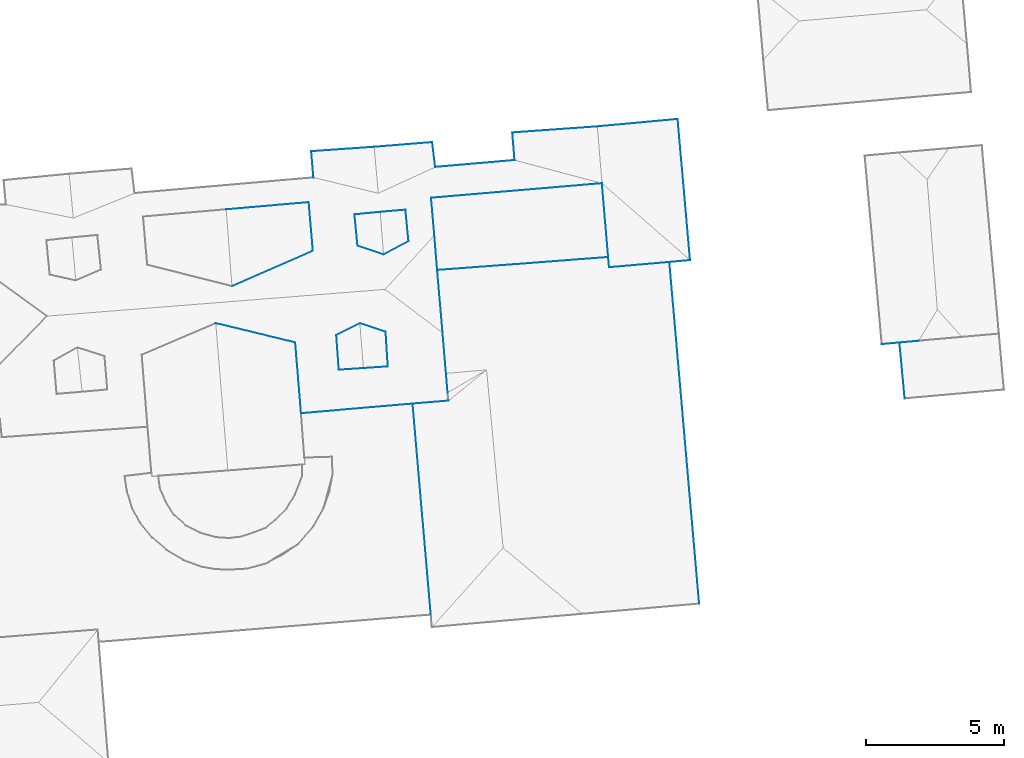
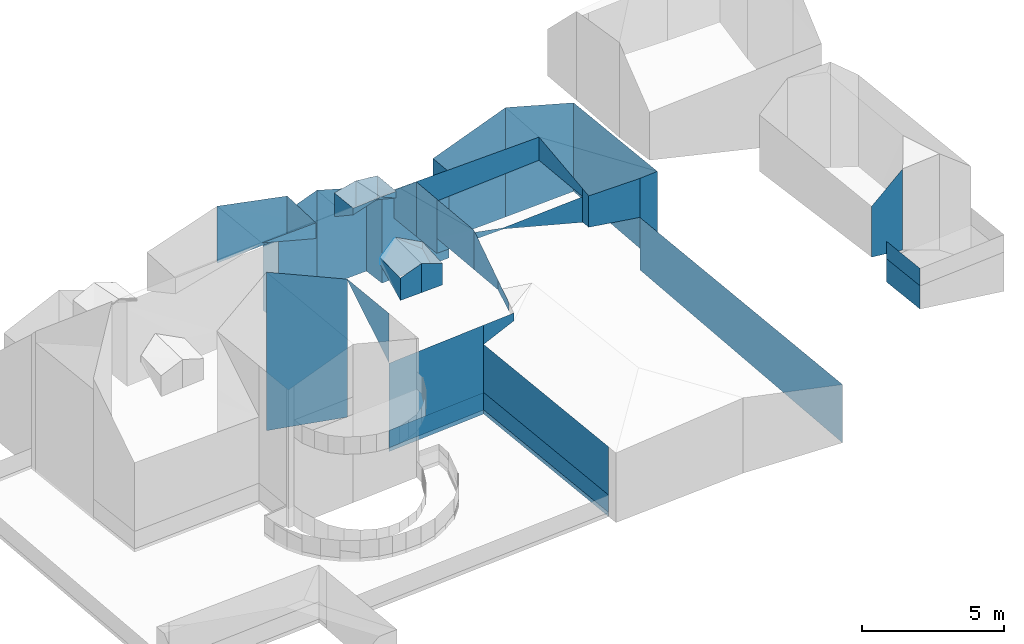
# Not in any storey, part 23 of 59: 51 walls.
"""IFC4 building model written with IfcOpenShell, lengths in metres."""

from ifc_helpers import new_model, entity, si_unit, converted_unit, frame, origin, place, context, subcontext, project, spatial, face_set, surface_model, element, save


model = new_model("IFC4")

# Units and contexts
model_context = context("Model", 3, precision=1e-05, world=origin())
body_context = subcontext(model_context, "Body", "Model", "MODEL_VIEW")
ifc_project = project(units=[converted_unit("PLANEANGLEUNIT", "DEGREE", entity("IfcRatioMeasure", 0.0174532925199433), si_unit("PLANEANGLEUNIT", "RADIAN"), dimensions=[0, 0, 0, 0, 0, 0, 0]), si_unit("AREAUNIT", "SQUARE_METRE"), si_unit("LENGTHUNIT", "METRE")], contexts=[model_context])

# Site, building
site_placement = place(None, origin())
site = spatial("IfcSite", under=ifc_project, at=site_placement, Name="_site")
building_1_placement = place(site_placement, origin())
building_1 = spatial("IfcBuilding", under=site, at=building_1_placement, Name="_building")

# Walls
wall_1_placement = place(building_1_placement, origin())
element("IfcWall", 1, at=wall_1_placement, inside=building_1, Name="Wall", PredefinedType="NOTDEFINED", context=body_context, shape_type="SurfaceModel", body=[
    surface_model("IfcFaceBasedSurfaceModel", [(262.94, 96.939, 228.74), (261.61, 96.82, 227.67), (261.61, 96.82, 225.482), (262.94, 96.939, 225.251)], [face_set([[[0, 1, 2, 3]]])]),
])
for number, where, name in (
    (2, (0.0, 0.0, 0.0), "Wall"),
    (3, (0.0, 0.0, 0.0), "Wall"),
):
    element("IfcWall", number, at=place(building_1_placement, frame(where)), inside=building_1, Name=name, PredefinedType="NOTDEFINED", context=body_context, shape_type="SurfaceModel", body=[
        surface_model("IfcFaceBasedSurfaceModel", [(262.44, 94.85, 225.15), (262.25, 96.881, 225.15), (262.25, 96.881, 225.9), (262.44, 94.85, 225.9)], [face_set([[[0, 1, 2, 3]]])]),
    ])
wall_2_placement = place(building_1_placement, origin())
element("IfcWall", 4, at=wall_2_placement, inside=building_1, Name="Wall", PredefinedType="NOTDEFINED", context=body_context, shape_type="SurfaceModel", body=[
    surface_model("IfcFaceBasedSurfaceModel", [(262.44, 94.85, 225.15), (262.25, 96.881, 225.15), (262.25, 96.881, 224.15), (262.44, 94.85, 224.15)], [face_set([[[0, 1, 2, 3]]])]),
])

# Building
building_2_placement = place(site_placement, origin())
building_2 = spatial("IfcBuilding", under=site, at=building_2_placement, Name="_building")

# Walls
wall_3_placement = place(building_2_placement, origin())
element("IfcWall", 5, at=wall_3_placement, inside=building_2, Name="Wall", PredefinedType="NOTDEFINED", context=body_context, shape_type="SurfaceModel", body=[
    surface_model("IfcFaceBasedSurfaceModel", [(240.96, 100.211, 232.129), (238.02, 98.92, 233.075), (240.96, 100.211, 231.453)], [face_set([[[0, 1, 2]]])]),
])
wall_4_placement = place(building_2_placement, origin())
element("IfcWall", 6, at=wall_4_placement, inside=building_2, Name="Wall", PredefinedType="NOTDEFINED", context=body_context, shape_type="SurfaceModel", body=[
    surface_model("IfcFaceBasedSurfaceModel", [(241.81, 97.15, 232.19), (242.66, 97.58, 232.508), (241.81, 97.15, 231.893)], [face_set([[[0, 1, 2]]])]),
])
wall_5_placement = place(building_2_placement, origin())
element("IfcWall", 7, at=wall_5_placement, inside=building_2, Name="Wall", PredefinedType="NOTDEFINED", context=body_context, shape_type="SurfaceModel", body=[
    surface_model("IfcFaceBasedSurfaceModel", [(242.66, 97.58, 232.508), (243.6, 97.27, 232.164), (243.6, 97.27, 231.868)], [face_set([[[0, 1, 2]]])]),
])
wall_6_placement = place(building_2_placement, origin())
element("IfcWall", 8, at=wall_6_placement, inside=building_2, Name="Wall", PredefinedType="NOTDEFINED", context=body_context, shape_type="SurfaceModel", body=[
    surface_model("IfcFaceBasedSurfaceModel", [(243.52, 100.07, 232.429), (242.58, 100.391, 232.08), (242.58, 100.391, 231.796)], [face_set([[[0, 1, 2]]])]),
])
wall_7_placement = place(building_2_placement, origin())
element("IfcWall", 9, at=wall_7_placement, inside=building_2, Name="Wall", PredefinedType="NOTDEFINED", context=body_context, shape_type="SurfaceModel", body=[
    surface_model("IfcFaceBasedSurfaceModel", [(244.43, 100.561, 232.056), (243.52, 100.07, 232.429), (244.43, 100.561, 231.77)], [face_set([[[0, 1, 2]]])]),
])
wall_8_placement = place(building_2_placement, origin())
element("IfcWall", 10, at=wall_8_placement, inside=building_2, Name="Wall", PredefinedType="NOTDEFINED", context=body_context, shape_type="SurfaceModel", body=[
    surface_model("IfcFaceBasedSurfaceModel", [(237.81, 101.711, 233.04), (240.81, 101.971, 232.27), (240.81, 101.971, 230.561), (237.81, 101.711, 230.587)], [face_set([[[0, 1, 2, 3]]])]),
])
wall_9_placement = place(building_2_placement, origin())
element("IfcWall", 11, at=wall_9_placement, inside=building_2, Name="Wall", PredefinedType="NOTDEFINED", context=body_context, shape_type="SurfaceModel", body=[
    surface_model("IfcFaceBasedSurfaceModel", [(242.79, 95.949, 232.32), (241.9, 95.891, 232.04), (241.9, 95.891, 231.08), (242.79, 95.949, 231.065)], [face_set([[[0, 1, 2, 3]]])]),
])
wall_10_placement = place(building_2_placement, origin())
element("IfcWall", 12, at=wall_10_placement, inside=building_2, Name="Wall", PredefinedType="NOTDEFINED", context=body_context, shape_type="SurfaceModel", body=[
    surface_model("IfcFaceBasedSurfaceModel", [(243.68, 96.01, 231.98), (242.79, 95.949, 232.32), (242.79, 95.949, 231.065), (243.68, 96.01, 231.053)], [face_set([[[0, 1, 2, 3]]])]),
])
wall_11_placement = place(building_2_placement, origin())
element("IfcWall", 13, at=wall_11_placement, inside=building_2, Name="Wall", PredefinedType="NOTDEFINED", context=body_context, shape_type="SurfaceModel", body=[
    surface_model("IfcFaceBasedSurfaceModel", [(242.47, 101.529, 232.09), (243.4, 101.619, 232.23), (243.4, 101.619, 231.05), (242.47, 101.529, 231.066)], [face_set([[[0, 1, 2, 3]]])]),
])
wall_12_placement = place(building_2_placement, origin())
element("IfcWall", 14, at=wall_12_placement, inside=building_2, Name="Wall", PredefinedType="NOTDEFINED", context=body_context, shape_type="SurfaceModel", body=[
    surface_model("IfcFaceBasedSurfaceModel", [(243.4, 101.619, 232.23), (244.32, 101.699, 232.08), (244.32, 101.699, 231.042), (243.4, 101.619, 231.05)], [face_set([[[0, 1, 2, 3]]])]),
])
wall_13_placement = place(building_2_placement, origin())
element("IfcWall", 15, at=wall_13_placement, inside=building_2, Name="Wall", PredefinedType="NOTDEFINED", context=body_context, shape_type="SurfaceModel", body=[
    surface_model("IfcFaceBasedSurfaceModel", [(241.9, 95.891, 232.04), (241.81, 97.15, 232.19), (241.81, 97.15, 231.893), (241.9, 95.891, 231.08)], [face_set([[[0, 1, 2, 3]]])]),
])
wall_14_placement = place(building_2_placement, origin())
element("IfcWall", 16, at=wall_14_placement, inside=building_2, Name="Wall", PredefinedType="NOTDEFINED", context=body_context, shape_type="SurfaceModel", body=[
    surface_model("IfcFaceBasedSurfaceModel", [(243.6, 97.27, 232.164), (243.68, 96.01, 231.98), (243.68, 96.01, 231.053), (243.6, 97.27, 231.868)], [face_set([[[0, 1, 2, 3]]])]),
])
wall_15_placement = place(building_2_placement, origin())
element("IfcWall", 17, at=wall_15_placement, inside=building_2, Name="Wall", PredefinedType="NOTDEFINED", context=body_context, shape_type="SurfaceModel", body=[
    surface_model("IfcFaceBasedSurfaceModel", [(242.58, 100.391, 232.08), (242.47, 101.529, 232.09), (242.47, 101.529, 231.066), (242.58, 100.391, 231.796)], [face_set([[[0, 1, 2, 3]]])]),
])
wall_16_placement = place(building_2_placement, origin())
element("IfcWall", 18, at=wall_16_placement, inside=building_2, Name="Wall", PredefinedType="NOTDEFINED", context=body_context, shape_type="SurfaceModel", body=[
    surface_model("IfcFaceBasedSurfaceModel", [(244.32, 101.699, 232.08), (244.43, 100.561, 232.056), (244.43, 100.561, 231.77), (244.32, 101.699, 231.042)], [face_set([[[0, 1, 2, 3]]])]),
])
wall_17_placement = place(building_2_placement, origin())
element("IfcWall", 19, at=wall_17_placement, inside=building_2, Name="Wall", PredefinedType="NOTDEFINED", context=body_context, shape_type="SurfaceModel", body=[
    surface_model("IfcFaceBasedSurfaceModel", [(240.81, 101.971, 232.27), (240.96, 100.211, 232.129), (240.96, 100.211, 231.453), (240.81, 101.971, 230.561)], [face_set([[[0, 1, 2, 3]]])]),
])
wall_18_placement = place(building_2_placement, origin())
element("IfcWall", 20, at=wall_18_placement, inside=building_2, Name="Wall", PredefinedType="NOTDEFINED", context=body_context, shape_type="SurfaceModel", body=[
    surface_model("IfcFaceBasedSurfaceModel", [(245.472, 99.51, 231.996), (245.668, 97.232, 231.97), (245.668, 97.232, 230.28), (245.472, 99.51, 230.31)], [face_set([[[0, 1, 2, 3]]])]),
])
wall_19_placement = place(building_2_placement, origin())
element("IfcWall", 21, at=wall_19_placement, inside=building_2, Name="Wall", PredefinedType="NOTDEFINED", context=body_context, shape_type="SurfaceModel", body=[
    surface_model("IfcFaceBasedSurfaceModel", [(245.668, 97.232, 231.97), (245.791, 95.76, 230.689), (245.791, 95.76, 230.26), (245.668, 97.232, 230.28)], [face_set([[[0, 1, 2, 3]]])]),
])
wall_20_placement = place(building_2_placement, origin())
element("IfcWall", 22, at=wall_20_placement, inside=building_2, Name="Wall", PredefinedType="NOTDEFINED", context=body_context, shape_type="SurfaceModel", body=[
    surface_model("IfcFaceBasedSurfaceModel", [(240.32, 96.881, 231.95), (240.53, 94.311, 231.96), (240.53, 94.311, 229.82), (240.32, 96.881, 231.9)], [face_set([[[0, 1, 2, 3]]])]),
])
wall_21_placement = place(building_2_placement, origin())
element("IfcWall", 23, at=wall_21_placement, inside=building_2, Name="Wall", PredefinedType="NOTDEFINED", context=body_context, shape_type="SurfaceModel", body=[
    surface_model("IfcFaceBasedSurfaceModel", [(245.25, 102.131, 230.89), (245.368, 100.776, 232.01), (245.368, 100.776, 229.66), (245.25, 102.131, 229.66)], [face_set([[[0, 1, 2, 3]]])]),
])
wall_22_placement = place(building_2_placement, origin())
element("IfcWall", 24, at=wall_22_placement, inside=building_2, Name="Wall", PredefinedType="NOTDEFINED", context=body_context, shape_type="SurfaceModel", body=[
    surface_model("IfcFaceBasedSurfaceModel", [(245.368, 100.776, 232.01), (245.472, 99.51, 231.996), (245.472, 99.51, 229.66), (245.368, 100.776, 229.66)], [face_set([[[0, 1, 2, 3]]])]),
])
wall_23_placement = place(building_2_placement, origin())
element("IfcWall", 25, at=wall_23_placement, inside=building_2, Name="Wall", PredefinedType="NOTDEFINED", context=body_context, shape_type="SurfaceModel", body=[
    surface_model("IfcFaceBasedSurfaceModel", [(251.45, 102.66, 230.66), (245.25, 102.131, 230.89), (245.25, 102.131, 229.66), (251.45, 102.66, 229.66)], [face_set([[[0, 1, 2, 3]]])]),
])
wall_24_placement = place(building_2_placement, origin())
element("IfcWall", 26, at=wall_24_placement, inside=building_2, Name="Wall", PredefinedType="NOTDEFINED", context=body_context, shape_type="SurfaceModel", body=[
    surface_model("IfcFaceBasedSurfaceModel", [(245.791, 95.76, 230.689), (245.85, 95.061, 230.08), (245.85, 95.061, 229.72), (245.791, 95.76, 230.26)], [face_set([[[0, 1, 2, 3]]])]),
])
wall_25_placement = place(building_2_placement, origin())
element("IfcWall", 27, at=wall_25_placement, inside=building_2, Name="Wall", PredefinedType="NOTDEFINED", context=body_context, shape_type="SurfaceModel", body=[
    surface_model("IfcFaceBasedSurfaceModel", [(251.679, 99.98, 229.984), (251.45, 102.66, 230.66), (251.45, 102.66, 229.66), (251.679, 99.98, 229.64)], [face_set([[[0, 1, 2, 3]]])]),
])
wall_26_placement = place(building_2_placement, origin())
element("IfcWall", 28, at=wall_26_placement, inside=building_2, Name="Wall", PredefinedType="NOTDEFINED", context=body_context, shape_type="SurfaceModel", body=[
    surface_model("IfcFaceBasedSurfaceModel", [(245.472, 99.51, 230.31), (248.3, 99.721, 229.64), (248.3, 99.721, 229.59), (245.472, 99.51, 229.66)], [face_set([[[0, 1, 2, 3]]])]),
])
wall_27_placement = place(building_2_placement, origin())
element("IfcWall", 29, at=wall_27_placement, inside=building_2, Name="Wall", PredefinedType="NOTDEFINED", context=body_context, shape_type="SurfaceModel", body=[
    surface_model("IfcFaceBasedSurfaceModel", [(237.43, 97.58, 232.84), (240.32, 96.881, 231.95), (240.32, 96.881, 226.014), (237.43, 97.58, 226.021)], [face_set([[[0, 1, 2, 3]]])]),
])
wall_28_placement = place(building_2_placement, origin())
element("IfcWall", 30, at=wall_28_placement, inside=building_2, Name="Wall", PredefinedType="NOTDEFINED", context=body_context, shape_type="SurfaceModel", body=[
    surface_model("IfcFaceBasedSurfaceModel", [(240.32, 96.881, 231.95), (237.43, 97.58, 232.84), (237.43, 97.58, 226.021), (240.32, 96.881, 226.014)], [face_set([[[0, 1, 2, 3]]])]),
])
wall_29_placement = place(building_2_placement, origin())
element("IfcWall", 31, at=wall_29_placement, inside=building_2, Name="Wall", PredefinedType="NOTDEFINED", context=body_context, shape_type="SurfaceModel", body=[
    surface_model("IfcFaceBasedSurfaceModel", [(245.88, 94.77, 229.83), (244.58, 94.66, 229.83), (244.58, 94.66, 229.0), (245.88, 94.77, 229.5)], [face_set([[[0, 1, 2, 3]]])]),
])
wall_30_placement = place(building_2_placement, origin())
element("IfcWall", 32, at=wall_30_placement, inside=building_2, Name="Wall", PredefinedType="NOTDEFINED", context=body_context, shape_type="SurfaceModel", body=[
    surface_model("IfcFaceBasedSurfaceModel", [(251.71, 99.609, 229.89), (251.679, 99.98, 229.984), (251.679, 99.98, 228.54), (251.71, 99.609, 228.54)], [face_set([[[0, 1, 2, 3]]])]),
])
wall_31_placement = place(building_2_placement, origin())
element("IfcWall", 33, at=wall_31_placement, inside=building_2, Name="Wall", PredefinedType="NOTDEFINED", context=body_context, shape_type="SurfaceModel", body=[
    surface_model("IfcFaceBasedSurfaceModel", [(251.679, 99.98, 229.64), (248.3, 99.721, 229.64), (248.3, 99.721, 229.59), (251.679, 99.98, 228.54)], [face_set([[[0, 1, 2, 3]]])]),
])
wall_32_placement = place(building_2_placement, origin())
element("IfcWall", 34, at=wall_32_placement, inside=building_2, Name="Wall", PredefinedType="NOTDEFINED", context=body_context, shape_type="SurfaceModel", body=[
    surface_model("IfcFaceBasedSurfaceModel", [(253.9, 99.801, 229.76), (251.71, 99.609, 229.89), (251.71, 99.609, 228.54), (253.9, 99.801, 228.08)], [face_set([[[0, 1, 2, 3]]])]),
])
wall_33_placement = place(building_2_placement, origin())
element("IfcWall", 35, at=wall_33_placement, inside=building_2, Name="Wall", PredefinedType="NOTDEFINED", context=body_context, shape_type="SurfaceModel", body=[
    surface_model("IfcFaceBasedSurfaceModel", [(248.2, 104.5, 229.76), (251.28, 104.721, 230.74), (251.28, 104.721, 226.031), (248.2, 104.5, 226.079)], [face_set([[[0, 1, 2, 3]]])]),
])
wall_34_placement = place(building_2_placement, origin())
element("IfcWall", 36, at=wall_34_placement, inside=building_2, Name="Wall", PredefinedType="NOTDEFINED", context=body_context, shape_type="SurfaceModel", body=[
    surface_model("IfcFaceBasedSurfaceModel", [(251.28, 104.721, 230.74), (254.2, 104.99, 229.76), (254.2, 104.99, 225.945), (251.28, 104.721, 226.031)], [face_set([[[0, 1, 2, 3]]])]),
])
wall_35_placement = place(building_2_placement, origin())
element("IfcWall", 37, at=wall_35_placement, inside=building_2, Name="Wall", PredefinedType="NOTDEFINED", context=body_context, shape_type="SurfaceModel", body=[
    surface_model("IfcFaceBasedSurfaceModel", [(240.9, 103.82, 229.76), (243.18, 103.98, 230.47), (243.18, 103.98, 226.196), (240.9, 103.82, 226.195)], [face_set([[[0, 1, 2, 3]]])]),
])
wall_36_placement = place(building_2_placement, origin())
element("IfcWall", 38, at=wall_36_placement, inside=building_2, Name="Wall", PredefinedType="NOTDEFINED", context=body_context, shape_type="SurfaceModel", body=[
    surface_model("IfcFaceBasedSurfaceModel", [(243.18, 103.98, 230.47), (245.29, 104.15, 229.76), (245.29, 104.15, 226.146), (243.18, 103.98, 226.196)], [face_set([[[0, 1, 2, 3]]])]),
])
wall_37_placement = place(building_2_placement, origin())
element("IfcWall", 39, at=wall_37_placement, inside=building_2, Name="Wall", PredefinedType="NOTDEFINED", context=body_context, shape_type="SurfaceModel", body=[
    surface_model("IfcFaceBasedSurfaceModel", [(240.98, 102.869, 229.76), (240.9, 103.82, 229.76), (240.9, 103.82, 226.195), (240.98, 102.869, 226.174)], [face_set([[[0, 1, 2, 3]]])]),
])
wall_38_placement = place(building_2_placement, origin())
element("IfcWall", 40, at=wall_38_placement, inside=building_2, Name="Wall", PredefinedType="NOTDEFINED", context=body_context, shape_type="SurfaceModel", body=[
    surface_model("IfcFaceBasedSurfaceModel", [(245.29, 104.15, 229.76), (245.4, 103.25, 229.76), (245.4, 103.25, 226.134), (245.29, 104.15, 226.146)], [face_set([[[0, 1, 2, 3]]])]),
])
wall_39_placement = place(building_2_placement, origin())
element("IfcWall", 41, at=wall_39_placement, inside=building_2, Name="Wall", PredefinedType="NOTDEFINED", context=body_context, shape_type="SurfaceModel", body=[
    surface_model("IfcFaceBasedSurfaceModel", [(244.58, 94.66, 229.83), (240.53, 94.311, 229.82), (240.53, 94.311, 226.017), (244.58, 94.66, 226.005)], [face_set([[[0, 1, 2, 3]]])]),
])
wall_40_placement = place(building_2_placement, origin())
element("IfcWall", 42, at=wall_40_placement, inside=building_2, Name="Wall", PredefinedType="NOTDEFINED", context=body_context, shape_type="SurfaceModel", body=[
    surface_model("IfcFaceBasedSurfaceModel", [(245.4, 103.25, 229.76), (248.28, 103.5, 229.76), (248.28, 103.5, 226.066), (245.4, 103.25, 226.134)], [face_set([[[0, 1, 2, 3]]])]),
])
wall_41_placement = place(building_2_placement, origin())
element("IfcWall", 43, at=wall_41_placement, inside=building_2, Name="Wall", PredefinedType="NOTDEFINED", context=body_context, shape_type="SurfaceModel", body=[
    surface_model("IfcFaceBasedSurfaceModel", [(248.28, 103.5, 229.76), (248.2, 104.5, 229.76), (248.2, 104.5, 226.079), (248.28, 103.5, 226.066)], [face_set([[[0, 1, 2, 3]]])]),
])
wall_42_placement = place(building_2_placement, origin())
element("IfcWall", 44, at=wall_42_placement, inside=building_2, Name="Wall", PredefinedType="NOTDEFINED", context=body_context, shape_type="SurfaceModel", body=[
    surface_model("IfcFaceBasedSurfaceModel", [(254.65, 99.869, 229.76), (253.9, 99.801, 229.76), (253.9, 99.801, 225.824), (254.65, 99.869, 225.796)], [face_set([[[0, 1, 2, 3]]])]),
])
wall_43_placement = place(building_2_placement, origin())
element("IfcWall", 45, at=wall_43_placement, inside=building_2, Name="Wall", PredefinedType="NOTDEFINED", context=body_context, shape_type="SurfaceModel", body=[
    surface_model("IfcFaceBasedSurfaceModel", [(254.2, 104.99, 229.76), (254.65, 99.869, 229.76), (254.65, 99.869, 225.796), (254.2, 104.99, 225.945)], [face_set([[[0, 1, 2, 3]]])]),
])
wall_44_placement = place(building_2_placement, origin())
element("IfcWall", 46, at=wall_44_placement, inside=building_2, Name="Wall", PredefinedType="NOTDEFINED", context=body_context, shape_type="SurfaceModel", body=[
    surface_model("IfcFaceBasedSurfaceModel", [(245.24, 87.0, 229.009), (244.58, 94.66, 229.0), (244.58, 94.66, 226.005), (245.24, 87.0, 226.008)], [face_set([[[0, 1, 2, 3]]])]),
])
wall_45_placement = place(building_2_placement, origin())
element("IfcWall", 47, at=wall_45_placement, inside=building_2, Name="Wall", PredefinedType="NOTDEFINED", context=body_context, shape_type="SurfaceModel", body=[
    surface_model("IfcFaceBasedSurfaceModel", [(253.9, 99.801, 228.08), (254.98, 87.4, 228.04), (254.98, 87.4, 225.529), (253.9, 99.801, 225.824)], [face_set([[[0, 1, 2, 3]]])]),
])
for number, where, name in (
    (48, (0.0, 0.0, 0.0), "Wall"),
    (49, (0.0, 0.0, 0.0), "Wall"),
):
    element("IfcWall", number, at=place(building_2_placement, frame(where)), inside=building_2, Name=name, PredefinedType="NOTDEFINED", context=body_context, shape_type="SurfaceModel", body=[
        surface_model("IfcFaceBasedSurfaceModel", [(244.58, 94.66, 226.183), (240.53, 94.311, 226.183), (240.53, 94.311, 226.933), (244.58, 94.66, 226.933)], [face_set([[[0, 1, 2, 3]]])]),
    ])
for number, where, name in (
    (50, (0.0, 0.0, 0.0), "Wall"),
    (51, (0.0, 0.0, 0.0), "Wall"),
):
    element("IfcWall", number, at=place(building_2_placement, frame(where)), inside=building_2, Name=name, PredefinedType="NOTDEFINED", context=body_context, shape_type="SurfaceModel", body=[
        surface_model("IfcFaceBasedSurfaceModel", [(245.24, 87.0, 226.183), (244.58, 94.66, 226.183), (244.58, 94.66, 226.933), (245.24, 87.0, 226.933)], [face_set([[[0, 1, 2, 3]]])]),
    ])

save(model, "model.ifc")
